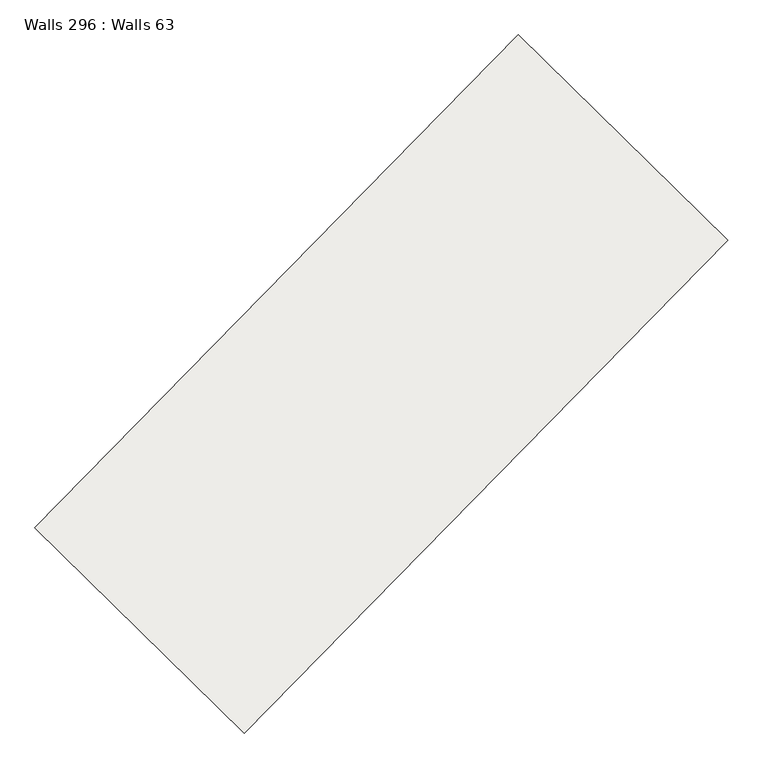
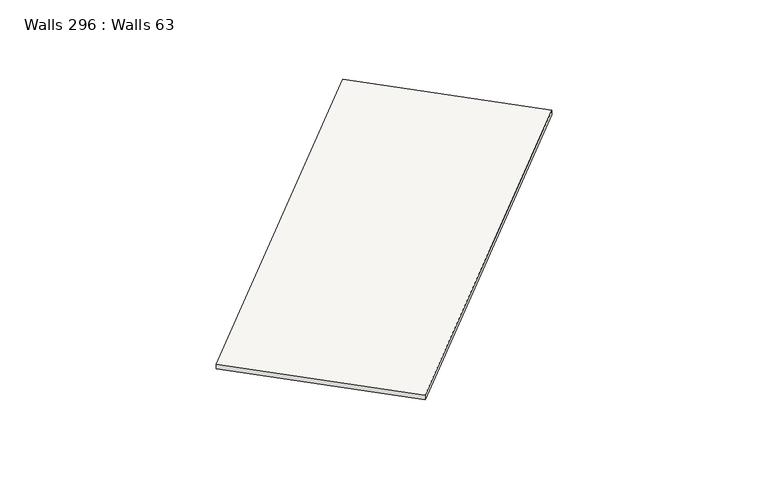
"""IFC4 building model written with IfcOpenShell, lengths in millimetres: slab geometry, Walls 296 : Walls 63."""

from ifc_helpers import new_model, si_unit, frame, origin, place, context, project, spatial, polyline, outline, extrude, source, transform, mapped, element, save


def walls_296_walls_63_b9440f62(model_context):
    return source(origin(), model_context, "Body", "SweptSolid", [
        extrude(outline(polyline([(-50.0, 0.0), (50.0, 0.0), (-13.1802672, -8699.9999996), (-113.1802672, -8699.9999996), (-50.0, 0.0)])), frame((49.8069136, -159294.1492401, 638050.0), z_axis=(-0.7137361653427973, 0.7004146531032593, 0.0), x_axis=(0.0, 0.0, 1.0)), (0.0, 0.0, 1.0), 3699.999995),
    ])


if __name__ == "__main__":
    model = new_model("IFC4")
    model_context = context("Model", 3, world=origin())
    ifc_project = project(units=[si_unit("LENGTHUNIT", "METRE", prefix="MILLI")], contexts=[model_context])
    site = spatial("IfcSite", under=ifc_project)
    building = spatial("IfcBuilding", under=site)
    placement = place(None, origin())
    walls_296_walls_63_shape = walls_296_walls_63_b9440f62(model_context)
    element("IfcSlab", 1, ObjectType="Walls 296 : Walls 63", at=placement, inside=building, context=model_context, shape_type="MappedRepresentation", body=[
        mapped(walls_296_walls_63_shape, transform((0.0, 0.0, 0.0), x_axis=(1.0, 0.0, 0.0), y_axis=(0.0, 1.0, 0.0), z_axis=(0.0, 0.0, 1.0))),
    ])
    save(model, "model.ifc")
